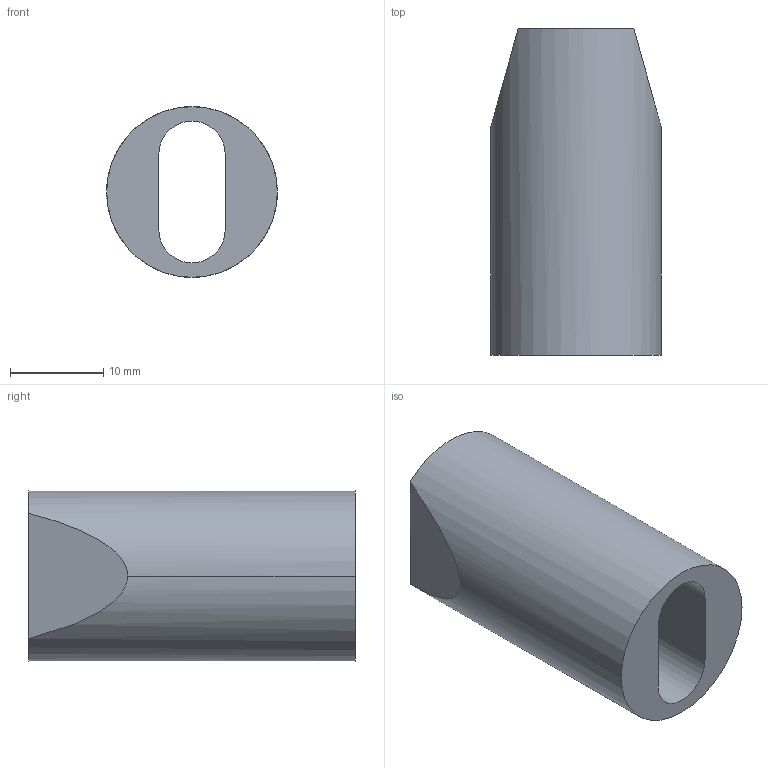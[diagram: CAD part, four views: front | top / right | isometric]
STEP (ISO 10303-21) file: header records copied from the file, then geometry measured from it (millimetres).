
FILE_DESCRIPTION (( 'STEP AP203' ), '1' );
FILE_NAME ('D10009290_KU-Modell_NovaPro_Abdeckhuelse_Bueroreling_01.step', '2025-03-18T15:14:15', ( '' ), ( '' ), 'SwSTEP 2.0', 'SolidWorks 2023', '' );
FILE_SCHEMA (( 'CONFIG_CONTROL_DESIGN' ));
Length unit declared in the file: millimetre
Products named in the file (1): D10009290_KU-Modell_NovaPro_Abdeckhuelse_Bueroreling_01
Bounding box: 18.3 x 35 x 18.3 mm (x, y, z)
Volume: 5570.8 mm3; surface area: 3630.4 mm2
Topology: 1 solids, 1 shells, 10 faces, 24 edges, 16 vertices
Faces by surface type: plane 6, cylinder 4
Entity records: 377 total; most frequent: CARTESIAN_POINT 63, DIRECTION 50, ORIENTED_EDGE 48, EDGE_CURVE 24, AXIS2_PLACEMENT_3D 19, VERTEX_POINT 16, EDGE_LOOP 12, LINE 12
